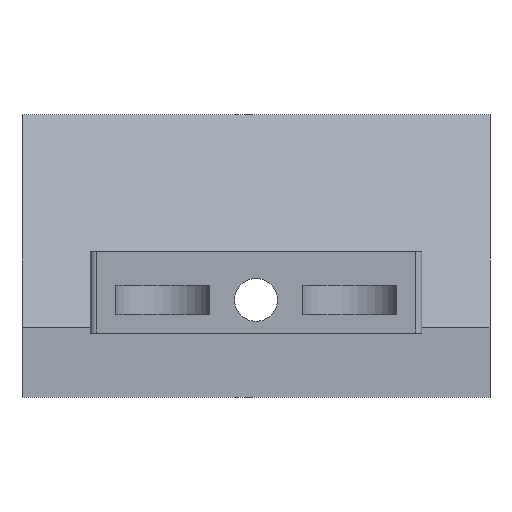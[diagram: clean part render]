
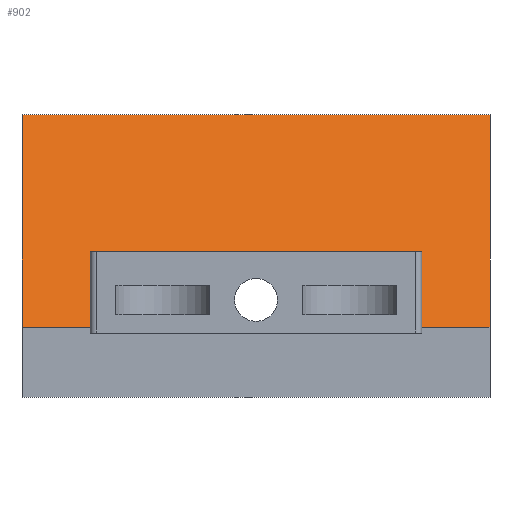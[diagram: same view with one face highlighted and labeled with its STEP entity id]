
A CAD part, front view. The second image highlights one B-rep face of the part: STEP entity #902.
In plain terms, the highlighted planar face has unit normal (0, -0.93, 0.368).
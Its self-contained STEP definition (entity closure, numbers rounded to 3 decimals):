
#301 = VERTEX_POINT('',#302);
#302 = CARTESIAN_POINT('',(8.5,3.846,44.5));
#308 = EDGE_CURVE('',#309,#301,#311,.T.);
#309 = VERTEX_POINT('',#310);
#310 = CARTESIAN_POINT('',(-8.5,3.846,44.5));
#311 = LINE('',#312,#313);
#312 = CARTESIAN_POINT('',(-6.,3.846,44.5));
#313 = VECTOR('',#314,1.);
#314 = DIRECTION('',(1.,0.,0.));
#664 = EDGE_CURVE('',#665,#301,#667,.T.);
#665 = VERTEX_POINT('',#666);
#666 = CARTESIAN_POINT('',(8.5,2.3,40.6));
#667 = LINE('',#668,#669);
#668 = CARTESIAN_POINT('',(8.5,4.348,45.766));
#669 = VECTOR('',#670,1.);
#670 = DIRECTION('',(0.,0.369,0.93));
#833 = VERTEX_POINT('',#834);
#834 = CARTESIAN_POINT('',(-8.5,2.3,40.6));
#840 = EDGE_CURVE('',#309,#833,#841,.T.);
#841 = LINE('',#842,#843);
#842 = CARTESIAN_POINT('',(-8.5,4.661,46.554));
#843 = VECTOR('',#844,1.);
#844 = DIRECTION('',(0.,-0.369,-0.93));
#902 = ADVANCED_FACE('',(#903),#944,.T.);
#903 = FACE_BOUND('',#904,.T.);
#904 = EDGE_LOOP('',(#905,#914,#920,#921,#922,#923,#931,#938));
#905 = ORIENTED_EDGE('',*,*,#906,.F.);
#906 = EDGE_CURVE('',#907,#909,#911,.T.);
#907 = VERTEX_POINT('',#908);
#908 = CARTESIAN_POINT('',(-12.,2.3,40.6));
#909 = VERTEX_POINT('',#910);
#910 = CARTESIAN_POINT('',(-12.,6.621,51.5));
#911 = B_SPLINE_CURVE_WITH_KNOTS('',1,(#912,#913),.UNSPECIFIED.,.F.,.F.,
  (2,2),(0.,1.),.PIECEWISE_BEZIER_KNOTS.);
#912 = CARTESIAN_POINT('',(-12.,2.3,40.6));
#913 = CARTESIAN_POINT('',(-12.,6.621,51.5));
#914 = ORIENTED_EDGE('',*,*,#915,.T.);
#915 = EDGE_CURVE('',#907,#833,#916,.T.);
#916 = LINE('',#917,#918);
#917 = CARTESIAN_POINT('',(-12.,2.3,40.6));
#918 = VECTOR('',#919,1.);
#919 = DIRECTION('',(1.,0.,0.));
#920 = ORIENTED_EDGE('',*,*,#840,.F.);
#921 = ORIENTED_EDGE('',*,*,#308,.T.);
#922 = ORIENTED_EDGE('',*,*,#664,.F.);
#923 = ORIENTED_EDGE('',*,*,#924,.T.);
#924 = EDGE_CURVE('',#665,#925,#927,.T.);
#925 = VERTEX_POINT('',#926);
#926 = CARTESIAN_POINT('',(12.,2.3,40.6));
#927 = LINE('',#928,#929);
#928 = CARTESIAN_POINT('',(-12.,2.3,40.6));
#929 = VECTOR('',#930,1.);
#930 = DIRECTION('',(1.,0.,0.));
#931 = ORIENTED_EDGE('',*,*,#932,.T.);
#932 = EDGE_CURVE('',#925,#933,#935,.T.);
#933 = VERTEX_POINT('',#934);
#934 = CARTESIAN_POINT('',(12.,6.621,51.5));
#935 = B_SPLINE_CURVE_WITH_KNOTS('',1,(#936,#937),.UNSPECIFIED.,.F.,.F.,
  (2,2),(0.,1.),.PIECEWISE_BEZIER_KNOTS.);
#936 = CARTESIAN_POINT('',(12.,2.3,40.6));
#937 = CARTESIAN_POINT('',(12.,6.621,51.5));
#938 = ORIENTED_EDGE('',*,*,#939,.F.);
#939 = EDGE_CURVE('',#909,#933,#940,.T.);
#940 = LINE('',#941,#942);
#941 = CARTESIAN_POINT('',(-12.,6.621,51.5));
#942 = VECTOR('',#943,1.);
#943 = DIRECTION('',(1.,0.,0.));
#944 = PLANE('',#945);
#945 = AXIS2_PLACEMENT_3D('',#946,#947,#948);
#946 = CARTESIAN_POINT('',(-12.,6.621,51.5));
#947 = DIRECTION('',(0.,-0.93,0.369));
#948 = DIRECTION('',(1.,0.,0.));
